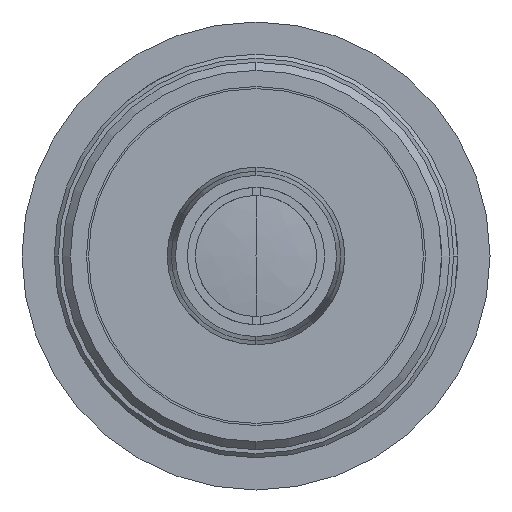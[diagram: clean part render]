
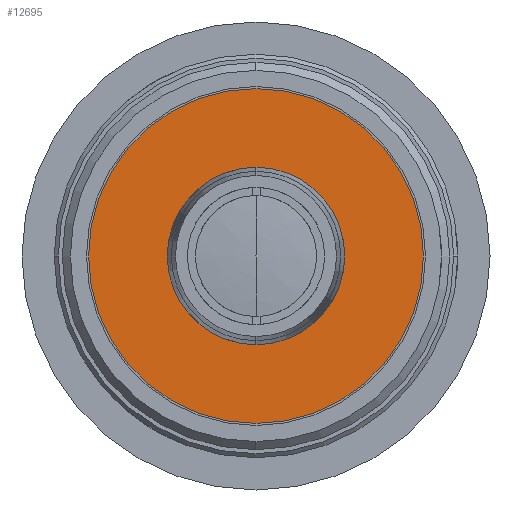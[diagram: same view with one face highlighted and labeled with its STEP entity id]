
A CAD part, left-side view. The second image highlights one B-rep face of the part: STEP entity #12695.
In plain terms, the highlighted planar face has unit normal (-1, 0, 0).
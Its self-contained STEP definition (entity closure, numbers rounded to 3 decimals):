
#11831=CARTESIAN_POINT('',(945.749,154.913,0.));
#11832=DIRECTION('',(-1.,0.,0.));
#11833=DIRECTION('',(0.,0.,1.));
#11834=AXIS2_PLACEMENT_3D('',#11831,#11832,#11833);
#11836=CARTESIAN_POINT('',(945.749,154.913,0.));
#11837=DIRECTION('',(-1.,0.,0.));
#11838=DIRECTION('',(0.,0.,-1.));
#11839=AXIS2_PLACEMENT_3D('',#11836,#11837,#11838);
#11841=CARTESIAN_POINT('',(945.749,154.913,0.));
#11842=DIRECTION('',(1.,0.,0.));
#11843=DIRECTION('',(0.,0.,1.));
#11844=AXIS2_PLACEMENT_3D('',#11841,#11842,#11843);
#11846=CARTESIAN_POINT('',(945.749,154.913,0.));
#11847=DIRECTION('',(1.,0.,0.));
#11848=DIRECTION('',(0.,0.,-1.));
#11849=AXIS2_PLACEMENT_3D('',#11846,#11847,#11848);
#12440=CARTESIAN_POINT('',(945.749,154.913,11.));
#12442=VERTEX_POINT('',#12440);
#12444=CARTESIAN_POINT('',(945.749,154.913,-11.));
#12446=VERTEX_POINT('',#12444);
#12455=CARTESIAN_POINT('',(945.749,154.913,21.5));
#12457=VERTEX_POINT('',#12455);
#12459=CARTESIAN_POINT('',(945.749,154.913,-21.5));
#12461=VERTEX_POINT('',#12459);
#12679=CARTESIAN_POINT('',(945.749,143.913,0.));
#12680=DIRECTION('',(-1.,0.,0.));
#12681=DIRECTION('',(0.,0.,1.));
#12682=AXIS2_PLACEMENT_3D('',#12679,#12680,#12681);
#12683=PLANE('',#12682);
#12685=ORIENTED_EDGE('',*,*,#12684,.F.);
#12687=ORIENTED_EDGE('',*,*,#12686,.F.);
#12688=EDGE_LOOP('',(#12685,#12687));
#12689=FACE_OUTER_BOUND('',#12688,.F.);
#12691=ORIENTED_EDGE('',*,*,#12690,.F.);
#12692=ORIENTED_EDGE('',*,*,#12658,.F.);
#12693=EDGE_LOOP('',(#12691,#12692));
#12694=FACE_BOUND('',#12693,.F.);
#12695=ADVANCED_FACE('',(#12689,#12694),#12683,.T.);
#11835=CIRCLE('',#11834,21.5);
#11840=CIRCLE('',#11839,21.5);
#11845=CIRCLE('',#11844,11.);
#11850=CIRCLE('',#11849,11.);
#12658=EDGE_CURVE('',#12446,#12442,#11850,.T.);
#12684=EDGE_CURVE('',#12457,#12461,#11835,.T.);
#12686=EDGE_CURVE('',#12461,#12457,#11840,.T.);
#12690=EDGE_CURVE('',#12442,#12446,#11845,.T.);
